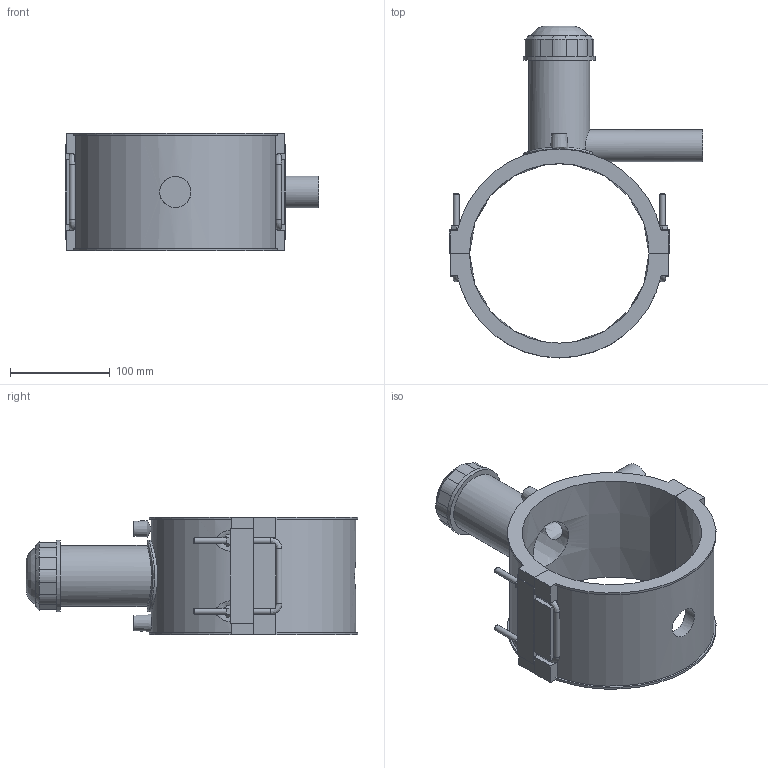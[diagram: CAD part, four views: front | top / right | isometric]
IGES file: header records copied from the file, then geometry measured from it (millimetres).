
Global section: file name: 496304180032.ipt; native system: Autodesk Inventor 2015; preprocessor: unknown; author: KIM; date: 20190124.131104; units: millimetre
Bounding box: 254.5 x 332.65 x 118 mm (x, y, z)
Volume: 1198586.6 mm3; surface area: 250852.1 mm2
Topology: 2 solids, 2 shells, 181 faces, 467 edges, 304 vertices
Faces by surface type: plane 110, cylinder 32, revolution 20, cone 14, bspline 5
Full cylindrical faces by diameter (mm): 4 x2, 6 x10, 32 x1, 61.2 x1, 72 x1
